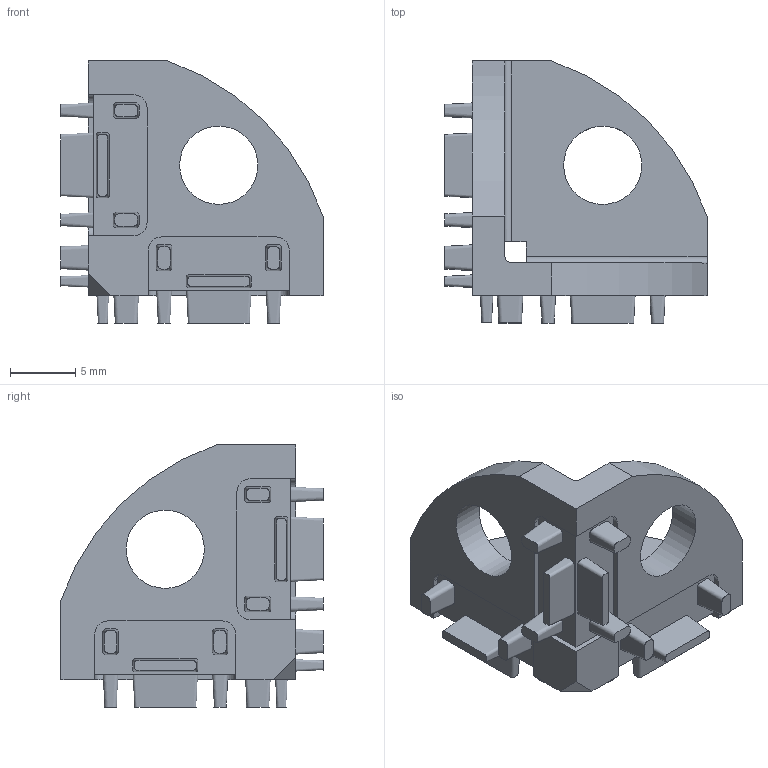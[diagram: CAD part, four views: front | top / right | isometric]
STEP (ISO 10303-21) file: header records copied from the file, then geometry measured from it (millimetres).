
FILE_DESCRIPTION( ( 'STEP AP214' ), '1' );
FILE_NAME( 'p:/temp/worker_147/temp/exporttempdir_5096_412_Q95se/format_0/093WE201N05.stp', '2022-02-23T14:41:30', ( 'License CC BY-ND 4.0' ), ( 'CADENAS' ), ' ', 'PARTsolutions', ' ' );
FILE_SCHEMA( ( 'AUTOMOTIVE_DESIGN { 1 0 10303 214 1 1 1 1 }' ) );
Length unit declared in the file: millimetre
Products named in the file (1): _093WE201N05
Bounding box: 20.1 x 20.1 x 20.1 mm (x, y, z)
Volume: 1496.8 mm3; surface area: 1924.9 mm2
Topology: 1 solids, 1 shells, 90 faces, 465 edges, 394 vertices
Faces by surface type: plane 51, cylinder 21, bspline 18
Full cylindrical faces by diameter (mm): 6 x3
Entity records: 6574 total; most frequent: CARTESIAN_POINT 2639, ORIENTED_EDGE 888, EDGE_CURVE 444, VERTEX_POINT 394, DIRECTION 344, B_SPLINE_CURVE_WITH_KNOTS 288, EDGE_LOOP 136, AXIS2_PLACEMENT_3D 115
